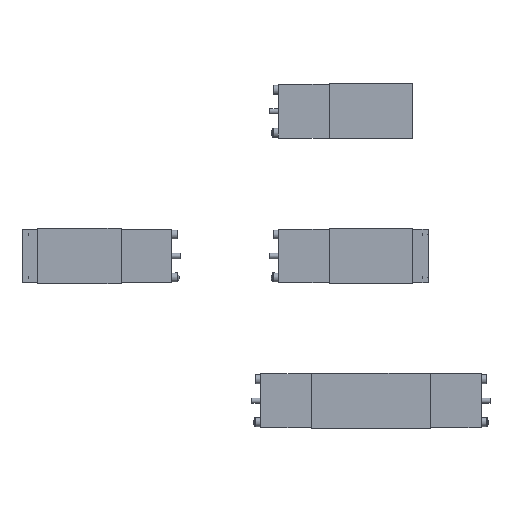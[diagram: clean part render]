
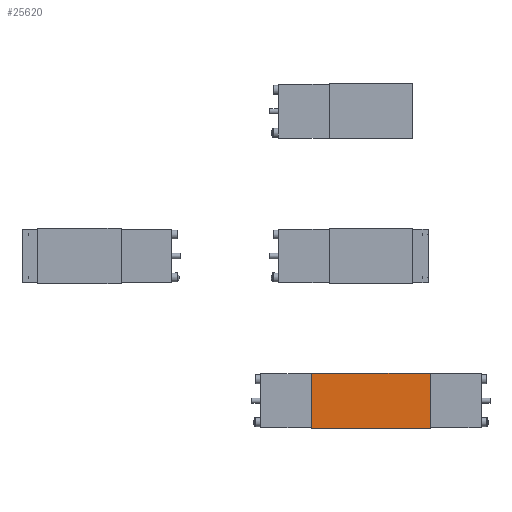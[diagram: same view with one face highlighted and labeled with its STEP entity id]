
A CAD part, front view. The second image highlights one B-rep face of the part: STEP entity #25620.
In plain terms, the highlighted planar face has unit normal (0, -1, 0).
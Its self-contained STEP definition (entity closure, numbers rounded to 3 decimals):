
#25620=ADVANCED_FACE('', (#25630), #25640, .T.);
#76550=AXIS2_PLACEMENT_3D('Ax2Pl3d', #76560, #76570, #76580);
#96010=CARTESIAN_POINT('', (0.,0.,62.));
#96050=CARTESIAN_POINT('', (0.,0.,
0.));
#96060=CARTESIAN_POINT('', (0.,0.,62.));
#76560=CARTESIAN_POINT('HicPkt', (0.,0.,
62.));
#96190=CARTESIAN_POINT('', (133.,0.,62.));
#96200=CARTESIAN_POINT('', (133.,0.,62.));
#96210=CARTESIAN_POINT('', (133.,0.,0.));
#96220=CARTESIAN_POINT('', (133.,0.,0.));
#96230=CARTESIAN_POINT('', (133.,0.,62.));
#111080=DIRECTION('', (0.,0.,1.));
#76570=DIRECTION('Axis', (0.,-1.,
0.));
#76580=DIRECTION('RefDirection', (0.,
0.,-1.));
#111090=DIRECTION('', (1.,0.,0.));
#111100=DIRECTION('', (1.,0.,0.));
#111110=DIRECTION('', (0.,0.,1.));
#140080=EDGE_CURVE('', #140060, #140000, #140090, .T.);
#140340=EDGE_CURVE('', #140000, #140350, #140360, .T.);
#140370=EDGE_CURVE('', #140060, #140380, #140390, .T.);
#140400=EDGE_CURVE('', #140380, #140350, #140410, .T.);
#175640=EDGE_LOOP('Edge_loop', (#175650,#175660,#175670,#175680));
#25630=FACE_OUTER_BOUND('Face_outer_bound', #175640, .T.);
#140090=LINE('Line', #96060, #188820);
#140360=LINE('Line', #96190, #188830);
#140390=LINE('Line', #96210, #188840);
#140410=LINE('Line', #96230, #188850);
#175650=ORIENTED_EDGE('', *, *, #140340, .F.);
#175660=ORIENTED_EDGE('', *, *, #140080, .F.);
#175670=ORIENTED_EDGE('', *, *, #140370, .T.);
#175680=ORIENTED_EDGE('', *, *, #140400, .T.);
#25640=PLANE('Plane', #76550);
#188820=VECTOR('', #111080, 62.);
#188830=VECTOR('', #111090, 133.);
#188840=VECTOR('', #111100, 133.);
#188850=VECTOR('', #111110, 62.);
#140000=VERTEX_POINT('', #96010);
#140060=VERTEX_POINT('', #96050);
#140350=VERTEX_POINT('', #96200);
#140380=VERTEX_POINT('', #96220);
